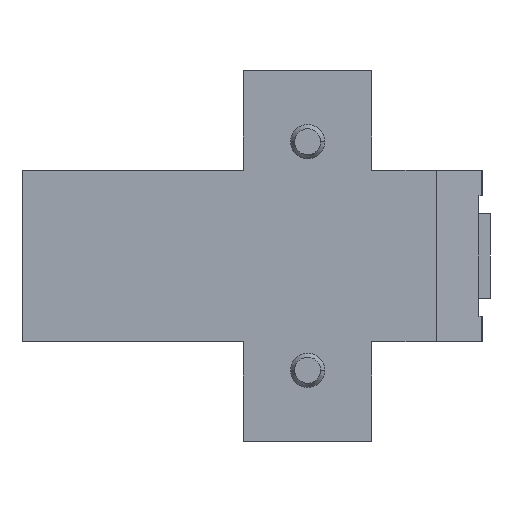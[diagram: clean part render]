
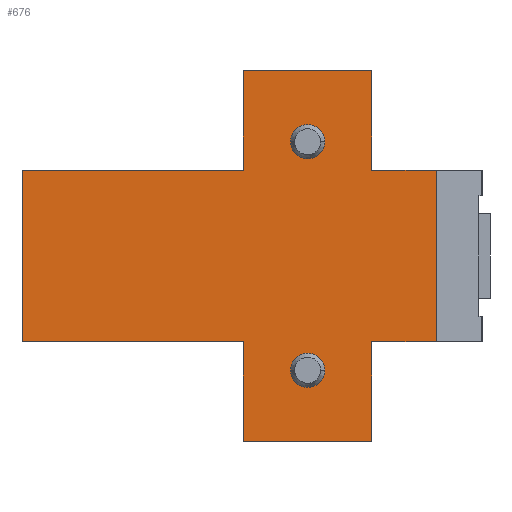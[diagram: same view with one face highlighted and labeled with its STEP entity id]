
A CAD part, left-side view. The second image highlights one B-rep face of the part: STEP entity #676.
In plain terms, the highlighted planar face has unit normal (-1, 0, 0).
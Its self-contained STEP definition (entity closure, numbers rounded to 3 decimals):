
#80 = EDGE_CURVE ( 'NONE', #3347, #3304, #2440, .T. ) ;
#81 = EDGE_CURVE ( 'NONE', #3355, #3316, #362, .T. ) ;
#240 = EDGE_CURVE ( 'NONE', #3669, #3355, #2708, .T. ) ;
#241 = EDGE_CURVE ( 'NONE', #3344, #3669, #2721, .T. ) ;
#242 = EDGE_CURVE ( 'NONE', #3350, #3344, #2725, .T. ) ;
#243 = EDGE_CURVE ( 'NONE', #3350, #3685, #2728, .T. ) ;
#244 = EDGE_CURVE ( 'NONE', #3352, #3685, #2731, .T. ) ;
#245 = EDGE_CURVE ( 'NONE', #3352, #3205, #2734, .T. ) ;
#246 = EDGE_CURVE ( 'NONE', #3205, #3319, #2737, .T. ) ;
#247 = EDGE_CURVE ( 'NONE', #3319, #3315, #2716, .T. ) ;
#250 = EDGE_CURVE ( 'NONE', #3261, #3337, #3393, .T. ) ;
#257 = EDGE_CURVE ( 'NONE', #3304, #3347, #3297, .T. ) ;
#355 = CARTESIAN_POINT ( 'NONE',  ( 0., 4., 26. ) ) ;
#362 = LINE ( 'NONE', #355, #2724 ) ;
#363 = CARTESIAN_POINT ( 'NONE',  ( 0., 13., 16. ) ) ;
#364 = DIRECTION ( 'NONE',  ( -1., 0., 0. ) ) ;
#365 = DIRECTION ( 'NONE',  ( 0., 0., -1. ) ) ;
#367 = DIRECTION ( 'NONE',  ( 0., 1., 0. ) ) ;
#410 = EDGE_CURVE ( 'NONE', #3315, #3153, #1363, .T. ) ;
#411 = EDGE_CURVE ( 'NONE', #3320, #3153, #1366, .T. ) ;
#412 = EDGE_CURVE ( 'NONE', #3320, #3316, #1369, .T. ) ;
#413 = EDGE_CURVE ( 'NONE', #3337, #3261, #3374, .T. ) ;
#475 = EDGE_LOOP ( 'NONE', ( #3597, #3596 ) ) ;
#676 = ADVANCED_FACE ( 'NONE', ( #2117, #2119, #2121 ), #2122, .F. ) ;
#857 = EDGE_LOOP ( 'NONE', ( #3595, #3594, #3593, #3592, #3591, #3590, #3589, #3588, #3587, #3586, #3585, #3584 ) ) ;
#859 = EDGE_LOOP ( 'NONE', ( #3583, #3582 ) ) ;
#953 = CARTESIAN_POINT ( 'NONE',  ( 0., 53., 12. ) ) ;
#995 = CARTESIAN_POINT ( 'NONE',  ( 0., 22., -26. ) ) ;
#1039 = CARTESIAN_POINT ( 'NONE',  ( 0., 15.4, -16. ) ) ;
#1072 = CARTESIAN_POINT ( 'NONE',  ( 0., 15.4, 16. ) ) ;
#1083 = CARTESIAN_POINT ( 'NONE',  ( 0., 53., -12. ) ) ;
#1084 = CARTESIAN_POINT ( 'NONE',  ( 0., 22., 26. ) ) ;
#1087 = CARTESIAN_POINT ( 'NONE',  ( 0., 22., -12. ) ) ;
#1088 = CARTESIAN_POINT ( 'NONE',  ( 0., 22., 12. ) ) ;
#1102 = CARTESIAN_POINT ( 'NONE',  ( 0., 10.6, -16. ) ) ;
#1108 = CARTESIAN_POINT ( 'NONE',  ( 0., -5.007, 12. ) ) ;
#1110 = CARTESIAN_POINT ( 'NONE',  ( 0., 10.6, 16. ) ) ;
#1112 = CARTESIAN_POINT ( 'NONE',  ( 0., -5.007, -12. ) ) ;
#1113 = CARTESIAN_POINT ( 'NONE',  ( 0., 4., -26. ) ) ;
#1116 = CARTESIAN_POINT ( 'NONE',  ( 0., 4., 26. ) ) ;
#1133 = CARTESIAN_POINT ( 'NONE',  ( 0., 4., 12. ) ) ;
#1149 = CARTESIAN_POINT ( 'NONE',  ( 0., 4., -12. ) ) ;
#1363 = LINE ( 'NONE', #1364, #3368 ) ;
#1364 = CARTESIAN_POINT ( 'NONE',  ( 0., 53., -12. ) ) ;
#1365 = DIRECTION ( 'NONE',  ( 0., 0., 1. ) ) ;
#1366 = LINE ( 'NONE', #1367, #2854 ) ;
#1367 = CARTESIAN_POINT ( 'NONE',  ( 0., -5.007, 12. ) ) ;
#1368 = DIRECTION ( 'NONE',  ( 0., 1., 0. ) ) ;
#1369 = LINE ( 'NONE', #1370, #3128 ) ;
#1370 = CARTESIAN_POINT ( 'NONE',  ( 0., 22., -26. ) ) ;
#1371 = DIRECTION ( 'NONE',  ( 0., 0., 1. ) ) ;
#1373 = CARTESIAN_POINT ( 'NONE',  ( 0., 13., -16. ) ) ;
#1374 = DIRECTION ( 'NONE',  ( -1., 0., 0. ) ) ;
#1375 = DIRECTION ( 'NONE',  ( 0., 0., -1. ) ) ;
#2114 = DIRECTION ( 'NONE',  ( 1., 0., 0. ) ) ;
#2117 = FACE_BOUND ( 'NONE', #475, .T. ) ;
#2118 = CARTESIAN_POINT ( 'NONE',  ( 0., -5.007, -12. ) ) ;
#2119 = FACE_OUTER_BOUND ( 'NONE', #857, .T. ) ;
#2121 = FACE_BOUND ( 'NONE', #859, .T. ) ;
#2122 = PLANE ( 'NONE',  #3126 ) ;
#2123 = DIRECTION ( 'NONE',  ( 0., 0., -1. ) ) ;
#2440 = CIRCLE ( 'NONE', #2466, 2.4 ) ;
#2466 = AXIS2_PLACEMENT_3D ( 'NONE', #363, #364, #365 ) ;
#2701 = CARTESIAN_POINT ( 'NONE',  ( 0., 4., -26. ) ) ;
#2708 = LINE ( 'NONE', #2701, #3463 ) ;
#2716 = LINE ( 'NONE', #2742, #3188 ) ;
#2720 = DIRECTION ( 'NONE',  ( 0., 0., 1. ) ) ;
#2721 = LINE ( 'NONE', #2722, #3440 ) ;
#2722 = CARTESIAN_POINT ( 'NONE',  ( 0., -5.007, 12. ) ) ;
#2723 = DIRECTION ( 'NONE',  ( 0., 1., 0. ) ) ;
#2724 = VECTOR ( 'NONE', #367, 1000. ) ;
#2725 = LINE ( 'NONE', #2726, #3302 ) ;
#2726 = CARTESIAN_POINT ( 'NONE',  ( 0., -5.007, -12. ) ) ;
#2727 = DIRECTION ( 'NONE',  ( 0., 0., 1. ) ) ;
#2728 = LINE ( 'NONE', #2729, #3417 ) ;
#2729 = CARTESIAN_POINT ( 'NONE',  ( 0., -5.007, -12. ) ) ;
#2730 = DIRECTION ( 'NONE',  ( 0., 1., 0. ) ) ;
#2731 = LINE ( 'NONE', #2732, #3505 ) ;
#2732 = CARTESIAN_POINT ( 'NONE',  ( 0., 4., -26. ) ) ;
#2733 = DIRECTION ( 'NONE',  ( 0., 0., 1. ) ) ;
#2734 = LINE ( 'NONE', #2735, #2972 ) ;
#2735 = CARTESIAN_POINT ( 'NONE',  ( 0., 4., -26. ) ) ;
#2736 = DIRECTION ( 'NONE',  ( 0., 1., 0. ) ) ;
#2737 = LINE ( 'NONE', #2739, #2907 ) ;
#2739 = CARTESIAN_POINT ( 'NONE',  ( 0., 22., -26. ) ) ;
#2740 = DIRECTION ( 'NONE',  ( 0., 0., 1. ) ) ;
#2742 = CARTESIAN_POINT ( 'NONE',  ( 0., -5.007, -12. ) ) ;
#2743 = DIRECTION ( 'NONE',  ( 0., 1., 0. ) ) ;
#2750 = CARTESIAN_POINT ( 'NONE',  ( 0., 13., -16. ) ) ;
#2751 = DIRECTION ( 'NONE',  ( -1., 0., 0. ) ) ;
#2753 = DIRECTION ( 'NONE',  ( 0., 0., -1. ) ) ;
#2778 = CARTESIAN_POINT ( 'NONE',  ( 0., 13., 16. ) ) ;
#2779 = DIRECTION ( 'NONE',  ( -1., 0., 0. ) ) ;
#2781 = DIRECTION ( 'NONE',  ( 0., 0., -1. ) ) ;
#2854 = VECTOR ( 'NONE', #1368, 1000. ) ;
#2907 = VECTOR ( 'NONE', #2740, 1000. ) ;
#2972 = VECTOR ( 'NONE', #2736, 1000. ) ;
#3126 = AXIS2_PLACEMENT_3D ( 'NONE', #2118, #2114, #2123 ) ;
#3128 = VECTOR ( 'NONE', #1371, 1000. ) ;
#3145 = AXIS2_PLACEMENT_3D ( 'NONE', #1373, #1374, #1375 ) ;
#3153 = VERTEX_POINT ( 'NONE', #953 ) ;
#3188 = VECTOR ( 'NONE', #2743, 1000. ) ;
#3205 = VERTEX_POINT ( 'NONE', #995 ) ;
#3261 = VERTEX_POINT ( 'NONE', #1039 ) ;
#3297 = CIRCLE ( 'NONE', #3399, 2.4 ) ;
#3302 = VECTOR ( 'NONE', #2727, 1000. ) ;
#3304 = VERTEX_POINT ( 'NONE', #1072 ) ;
#3315 = VERTEX_POINT ( 'NONE', #1083 ) ;
#3316 = VERTEX_POINT ( 'NONE', #1084 ) ;
#3319 = VERTEX_POINT ( 'NONE', #1087 ) ;
#3320 = VERTEX_POINT ( 'NONE', #1088 ) ;
#3337 = VERTEX_POINT ( 'NONE', #1102 ) ;
#3344 = VERTEX_POINT ( 'NONE', #1108 ) ;
#3347 = VERTEX_POINT ( 'NONE', #1110 ) ;
#3350 = VERTEX_POINT ( 'NONE', #1112 ) ;
#3352 = VERTEX_POINT ( 'NONE', #1113 ) ;
#3355 = VERTEX_POINT ( 'NONE', #1116 ) ;
#3368 = VECTOR ( 'NONE', #1365, 1000. ) ;
#3374 = CIRCLE ( 'NONE', #3145, 2.4 ) ;
#3393 = CIRCLE ( 'NONE', #3507, 2.4 ) ;
#3399 = AXIS2_PLACEMENT_3D ( 'NONE', #2778, #2779, #2781 ) ;
#3417 = VECTOR ( 'NONE', #2730, 1000. ) ;
#3440 = VECTOR ( 'NONE', #2723, 1000. ) ;
#3463 = VECTOR ( 'NONE', #2720, 1000. ) ;
#3505 = VECTOR ( 'NONE', #2733, 1000. ) ;
#3507 = AXIS2_PLACEMENT_3D ( 'NONE', #2750, #2751, #2753 ) ;
#3582 = ORIENTED_EDGE ( 'NONE', *, *, #257, .F. ) ;
#3583 = ORIENTED_EDGE ( 'NONE', *, *, #80, .F. ) ;
#3584 = ORIENTED_EDGE ( 'NONE', *, *, #81, .T. ) ;
#3585 = ORIENTED_EDGE ( 'NONE', *, *, #240, .T. ) ;
#3586 = ORIENTED_EDGE ( 'NONE', *, *, #241, .T. ) ;
#3587 = ORIENTED_EDGE ( 'NONE', *, *, #242, .T. ) ;
#3588 = ORIENTED_EDGE ( 'NONE', *, *, #243, .F. ) ;
#3589 = ORIENTED_EDGE ( 'NONE', *, *, #244, .T. ) ;
#3590 = ORIENTED_EDGE ( 'NONE', *, *, #245, .F. ) ;
#3591 = ORIENTED_EDGE ( 'NONE', *, *, #246, .F. ) ;
#3592 = ORIENTED_EDGE ( 'NONE', *, *, #247, .F. ) ;
#3593 = ORIENTED_EDGE ( 'NONE', *, *, #410, .F. ) ;
#3594 = ORIENTED_EDGE ( 'NONE', *, *, #411, .T. ) ;
#3595 = ORIENTED_EDGE ( 'NONE', *, *, #412, .F. ) ;
#3596 = ORIENTED_EDGE ( 'NONE', *, *, #250, .F. ) ;
#3597 = ORIENTED_EDGE ( 'NONE', *, *, #413, .F. ) ;
#3669 = VERTEX_POINT ( 'NONE', #1133 ) ;
#3685 = VERTEX_POINT ( 'NONE', #1149 ) ;
